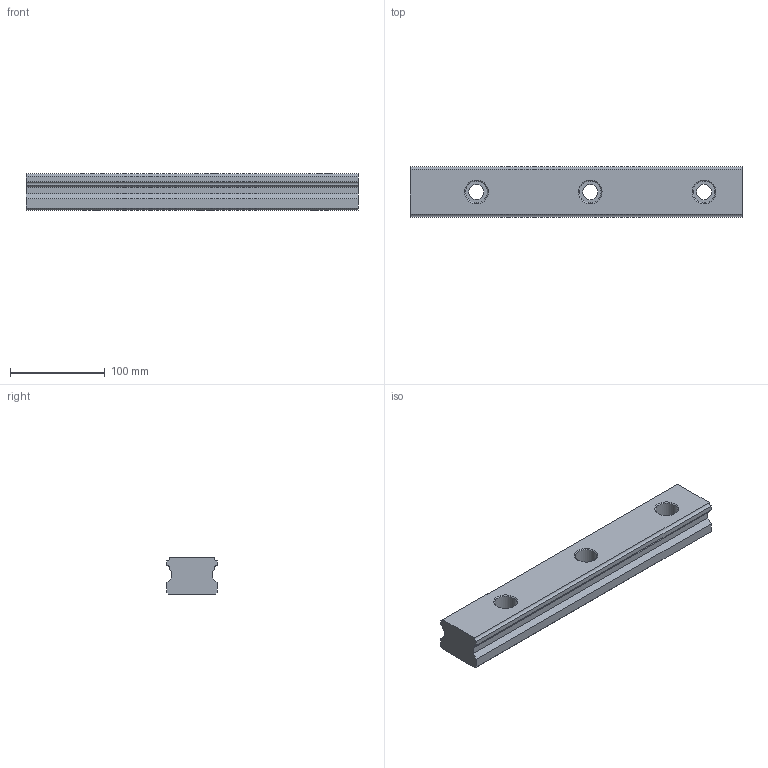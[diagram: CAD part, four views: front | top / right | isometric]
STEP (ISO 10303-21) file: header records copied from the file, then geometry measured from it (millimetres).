
FILE_DESCRIPTION(/* description */ (''),/* implementation_level */ '2;1');
FILE_NAME(/* name */ 'C:\Users\Uso Geral\Desktop\BCH55 TRILHO.step',/* time_stamp */ '2014-09-12T13:25:26-03:00',/* author */ ('Uso Geral'),/* organization */ (''),/* preprocessor_version */ 'ST-DEVELOPER v15.2',/* originating_system */ 'Autodesk Inventor 2014',/* authorisation */ '');
FILE_SCHEMA (('AUTOMOTIVE_DESIGN { 1 0 10303 214 3 1 1 }'));
Length unit declared in the file: millimetre
Products named in the file (1): BCH55 TRILHO
Bounding box: 350 x 53 x 38 mm (x, y, z)
Volume: 616388.3 mm3; surface area: 74651.7 mm2
Topology: 1 solids, 1 shells, 35 faces, 84 edges, 54 vertices
Faces by surface type: plane 19, cylinder 10, cone 6
Full cylindrical faces by diameter (mm): 16 x3, 23 x3
Entity records: 989 total; most frequent: DIRECTION 170, CARTESIAN_POINT 162, ORIENTED_EDGE 144, EDGE_CURVE 72, AXIS2_PLACEMENT_3D 62, EDGE_LOOP 56, VERTEX_POINT 54, LINE 46
